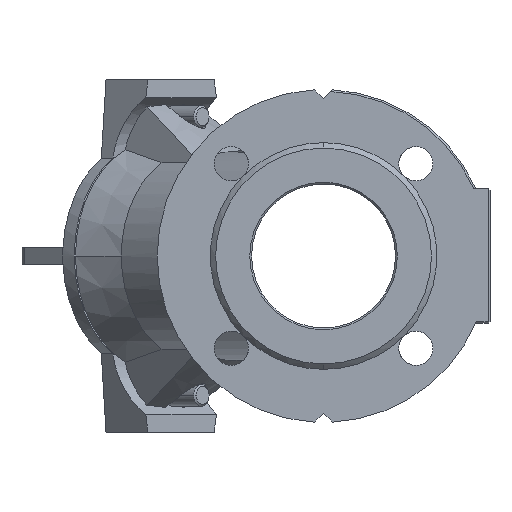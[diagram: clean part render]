
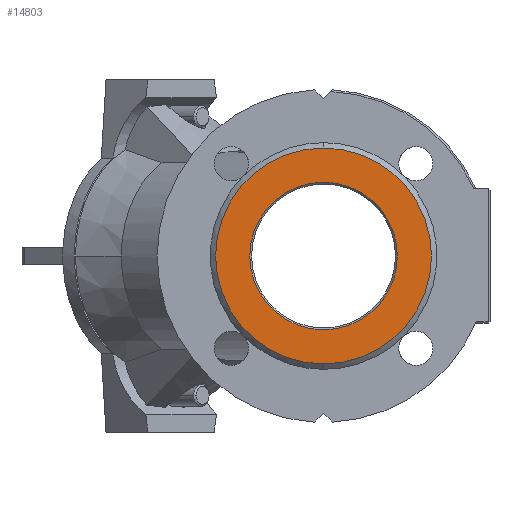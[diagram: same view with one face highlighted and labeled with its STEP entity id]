
A CAD part, left-side view. The second image highlights one B-rep face of the part: STEP entity #14803.
In plain terms, the highlighted planar face has unit normal (-1, 0, 0).
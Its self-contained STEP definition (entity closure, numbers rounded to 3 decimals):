
#542 = VERTEX_POINT ( 'NONE', #4242 ) ;
#620 = EDGE_CURVE ( 'NONE', #542, #621, #4602, .T. ) ;
#621 = VERTEX_POINT ( 'NONE', #4597 ) ;
#724 = EDGE_CURVE ( 'NONE', #729, #845, #5159, .T. ) ;
#729 = VERTEX_POINT ( 'NONE', #5150 ) ;
#845 = VERTEX_POINT ( 'NONE', #5422 ) ;
#4242 = CARTESIAN_POINT ( 'NONE',  ( -120., 0., 60. ) ) ;
#4597 = CARTESIAN_POINT ( 'NONE',  ( -120., 0., -60. ) ) ;
#4598 = DIRECTION ( 'NONE',  ( 0., 0., 1. ) ) ;
#4599 = DIRECTION ( 'NONE',  ( -1., 0., 0. ) ) ;
#4600 = CARTESIAN_POINT ( 'NONE',  ( -120., 0., 0. ) ) ;
#4601 = AXIS2_PLACEMENT_3D ( 'NONE', #4600, #4599, #4598 ) ;
#4602 = CIRCLE ( 'NONE', #4601, 60. ) ;
#5150 = CARTESIAN_POINT ( 'NONE',  ( -120., 0., 41. ) ) ;
#5155 = DIRECTION ( 'NONE',  ( 0., 0., -1. ) ) ;
#5156 = DIRECTION ( 'NONE',  ( 1., 0., 0. ) ) ;
#5157 = CARTESIAN_POINT ( 'NONE',  ( -120., 0., 0. ) ) ;
#5158 = AXIS2_PLACEMENT_3D ( 'NONE', #5157, #5156, #5155 ) ;
#5159 = CIRCLE ( 'NONE', #5158, 41. ) ;
#5422 = CARTESIAN_POINT ( 'NONE',  ( -120., 0., -41. ) ) ;
#13958 = EDGE_CURVE ( 'NONE', #621, #542, #23335, .T. ) ;
#14042 = ORIENTED_EDGE ( 'NONE', *, *, #620, .T. ) ;
#14087 = EDGE_LOOP ( 'NONE', ( #14089, #14042 ) ) ;
#14089 = ORIENTED_EDGE ( 'NONE', *, *, #13958, .T. ) ;
#14232 = ORIENTED_EDGE ( 'NONE', *, *, #724, .T. ) ;
#14234 = EDGE_LOOP ( 'NONE', ( #14232, #14415 ) ) ;
#14395 = EDGE_CURVE ( 'NONE', #845, #729, #23399, .T. ) ;
#14415 = ORIENTED_EDGE ( 'NONE', *, *, #14395, .T. ) ;
#14803 = ADVANCED_FACE ( 'NONE', ( #23500, #23499 ), #23498, .F. ) ;
#23331 = DIRECTION ( 'NONE',  ( 0., 0., 1. ) ) ;
#23332 = DIRECTION ( 'NONE',  ( -1., 0., 0. ) ) ;
#23333 = CARTESIAN_POINT ( 'NONE',  ( -120., 0., 0. ) ) ;
#23334 = AXIS2_PLACEMENT_3D ( 'NONE', #23333, #23332, #23331 ) ;
#23335 = CIRCLE ( 'NONE', #23334, 60. ) ;
#23399 = CIRCLE ( 'NONE', #23420, 41. ) ;
#23417 = DIRECTION ( 'NONE',  ( 0., 0., -1. ) ) ;
#23418 = DIRECTION ( 'NONE',  ( 1., 0., 0. ) ) ;
#23419 = CARTESIAN_POINT ( 'NONE',  ( -120., 0., 0. ) ) ;
#23420 = AXIS2_PLACEMENT_3D ( 'NONE', #23419, #23418, #23417 ) ;
#23493 = DIRECTION ( 'NONE',  ( 0., 0., -1. ) ) ;
#23494 = DIRECTION ( 'NONE',  ( 1., 0., 0. ) ) ;
#23495 = AXIS2_PLACEMENT_3D ( 'NONE', #23497, #23494, #23493 ) ;
#23497 = CARTESIAN_POINT ( 'NONE',  ( -120., 0., 0. ) ) ;
#23498 = PLANE ( 'NONE',  #23495 ) ;
#23499 = FACE_OUTER_BOUND ( 'NONE', #14087, .T. ) ;
#23500 = FACE_BOUND ( 'NONE', #14234, .T. ) ;
